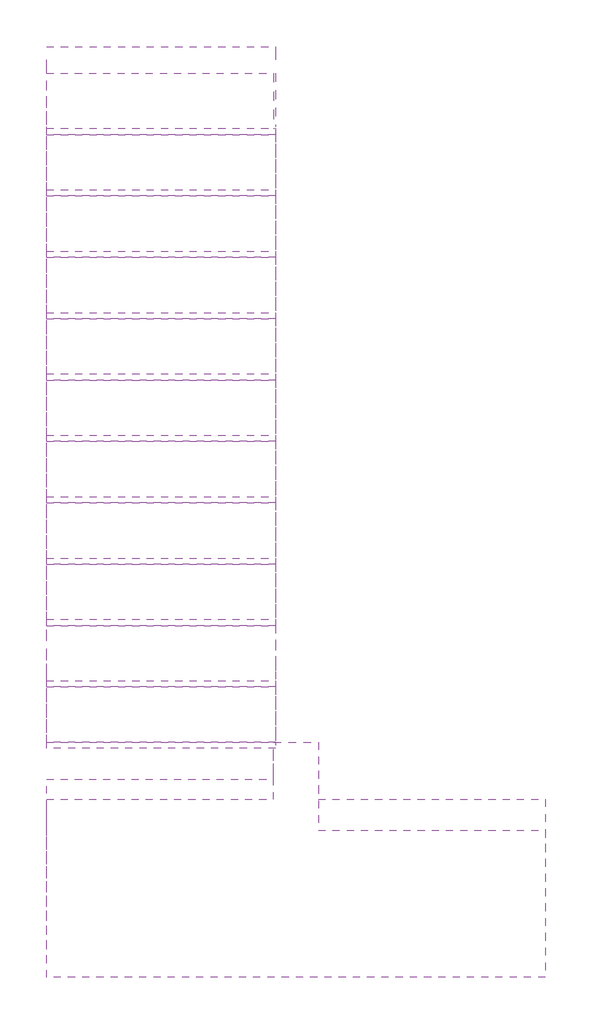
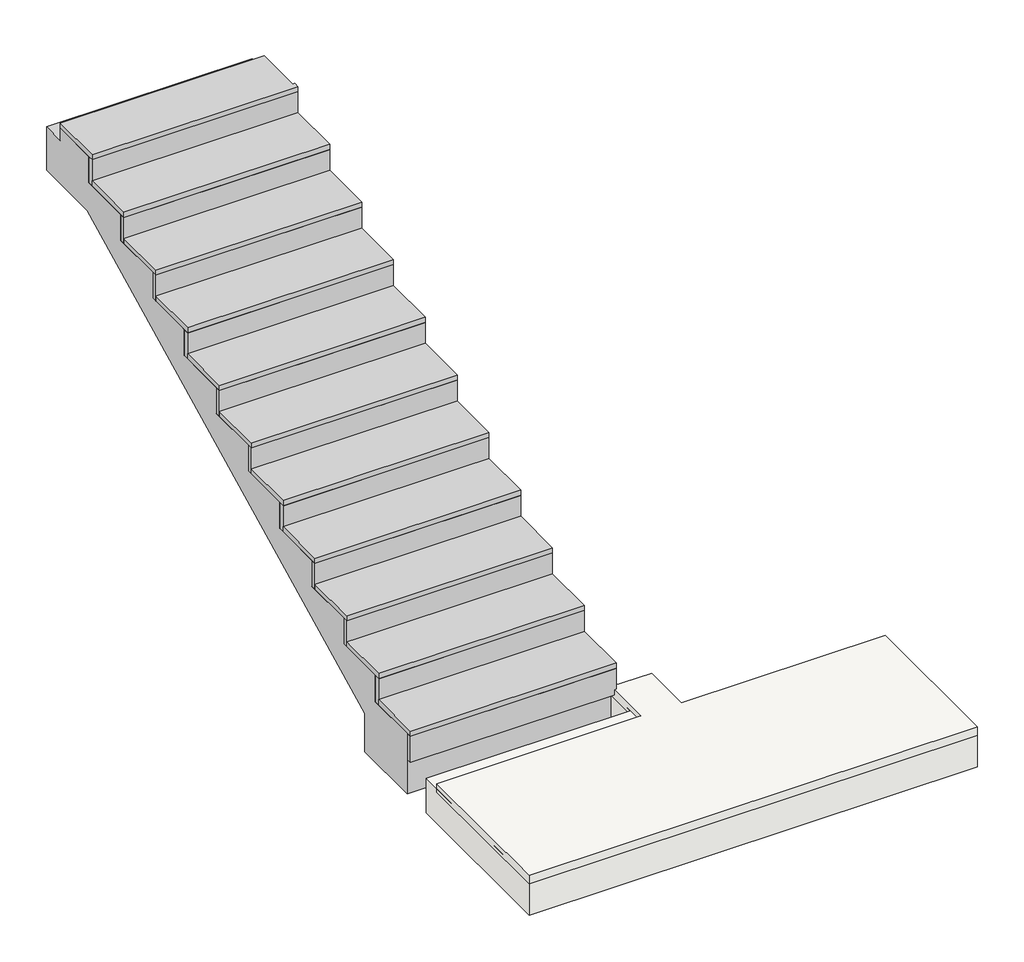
# One storey: 22 proxies, 2 slabs, 1 beam.
"""IFC4 building model written with IfcOpenShell, lengths in millimetres."""

from ifc_helpers import new_model, si_unit, frame, origin, place, context, project, spatial, polyline, outline, extrude, faceted_brep, transform, mapped, element, save
from components import generic_models_d5e938d4, generic_models_e5fd676e

model = new_model("IFC4")

# Units and contexts
model_context = context("Model", 3, world=origin())
ifc_project = project(units=[si_unit("LENGTHUNIT", "METRE", prefix="MILLI")], contexts=[model_context])

# Site, building, storey
site = spatial("IfcSite", under=ifc_project)
building = spatial("IfcBuilding", under=site)
storey = spatial("IfcBuildingStorey", under=building, Name="01_+0,000_В", Elevation=-3200.0)

# Beam
placement = place(None, origin())
element("IfcBeam", 1, ObjectType="SF_марш монолитный с отделкой_3.4 : UP_300х150", at=placement, inside=storey, context=model_context, shape_type="Brep", body=[
    faceted_brep([(141910.0000001, 115767.7708751, 850.0), (143030.0000001, 115767.7708751, 850.0), (143030.0000001, 113149.9999987, -458.8854382), (141910.0000001, 113149.9999987, -458.8854382), (143030.0000001, 116019.9999987, 1100.0), (143030.0000001, 116019.9999987, 1170.0), (143030.0000001, 115749.9999987, 1170.0), (143030.0000001, 115749.9999987, 1100.0), (143030.0000001, 115749.9999987, 1020.0), (143030.0000001, 115449.9999987, 1020.0), (143030.0000001, 115449.9999987, 870.0), (143030.0000001, 115149.9999987, 870.0), (143030.0000001, 115149.9999987, 720.0), (143030.0000001, 114849.9999987, 720.0), (143030.0000001, 114849.9999987, 570.0), (143030.0000001, 114549.9999987, 570.0), (143030.0000001, 114549.9999987, 420.0), (143030.0000001, 114249.9999987, 420.0), (143030.0000001, 114249.9999987, 270.0), (143030.0000001, 113949.9999987, 270.0), (143030.0000001, 113949.9999987, 120.0), (143030.0000001, 113649.9999987, 120.0), (143030.0000001, 113649.9999987, -30.0), (143030.0000001, 113349.9999987, -30.0), (143030.0000001, 113349.9999987, -180.0), (143030.0000001, 113049.9999987, -180.0), (143030.0000001, 113049.9999987, -330.0), (143030.0000001, 112749.9999987, -330.0), (143030.0000001, 112749.9999987, -480.0), (143030.0000001, 112749.9999987, -680.0), (143030.0000001, 113149.9999987, -680.0), (143030.0000001, 116149.9999987, 850.0), (143030.0000001, 116149.9999987, 1100.0), (141910.0000001, 116019.9999987, 1170.0), (141910.0000001, 116019.9999987, 1100.0), (141910.0000001, 116149.9999987, 1100.0), (141910.0000001, 116149.9999987, 850.0), (141910.0000001, 113149.9999987, -680.0), (141910.0000001, 112749.9999987, -680.0), (141910.0000001, 112749.9999987, -480.0), (141910.0000001, 112749.9999987, -330.0), (141910.0000001, 113049.9999987, -330.0), (141910.0000001, 113049.9999987, -180.0), (141910.0000001, 113349.9999987, -180.0), (141910.0000001, 113349.9999987, -30.0), (141910.0000001, 113649.9999987, -30.0), (141910.0000001, 113649.9999987, 120.0), (141910.0000001, 113949.9999987, 120.0), (141910.0000001, 113949.9999987, 270.0), (141910.0000001, 114249.9999987, 270.0), (141910.0000001, 114249.9999987, 420.0), (141910.0000001, 114549.9999987, 420.0), (141910.0000001, 114549.9999987, 570.0), (141910.0000001, 114849.9999987, 570.0), (141910.0000001, 114849.9999987, 720.0), (141910.0000001, 115149.9999987, 720.0), (141910.0000001, 115149.9999987, 870.0), (141910.0000001, 115449.9999987, 870.0), (141910.0000001, 115449.9999987, 1020.0), (141910.0000001, 115749.9999987, 1020.0), (141910.0000001, 115749.9999987, 1170.0)], [[[0, 1, 2, 3]], [[4, 5, 6, 7, 8, 9, 10, 11, 12, 13, 14, 15, 16, 17, 18, 19, 20, 21, 22, 23, 24, 25, 26, 27, 28, 29, 30, 2, 1, 31, 32]], [[33, 34, 35, 36, 0, 3, 37, 38, 39, 40, 41, 42, 43, 44, 45, 46, 47, 48, 49, 50, 51, 52, 53, 54, 55, 56, 57, 58, 59, 60]], [[1, 0, 36, 31]], [[26, 41, 40, 27]], [[41, 26, 25, 42]], [[42, 25, 24, 43]], [[43, 24, 23, 44]], [[44, 23, 22, 45]], [[45, 22, 21, 46]], [[46, 21, 20, 47]], [[47, 20, 19, 48]], [[48, 19, 18, 49]], [[49, 18, 17, 50]], [[50, 17, 16, 51]], [[51, 16, 15, 52]], [[52, 15, 14, 53]], [[53, 14, 13, 54]], [[54, 13, 12, 55]], [[55, 12, 11, 56]], [[56, 11, 10, 57]], [[57, 10, 9, 58]], [[58, 9, 8, 59]], [[59, 8, 7, 6, 60]], [[37, 30, 29, 38]], [[5, 33, 60, 6]], [[36, 35, 32, 31]], [[30, 37, 3, 2]], [[34, 4, 32, 35]], [[5, 4, 34, 33]], [[38, 29, 28, 27, 40, 39]]]),
])

# Proxies
element("IfcBuildingElementProxy", 2, Name="GM_Отделка : Подступенок", ObjectType="GM_Отделка : Подступенок", at=placement, inside=storey, context=model_context, shape_type="SweptSolid", body=[
    extrude(outline(polyline([(143030.0000001, 112719.9999987), (141910.0000001, 112719.9999987), (141910.0000001, 112749.9999987), (143030.0000001, 112749.9999987), (143030.0000001, 112719.9999987)])), frame((0.0, 0.0, -480.0), z_axis=(0.0, 0.0, 1.0), x_axis=(1.0, 0.0, 0.0)), (0.0, 0.0, 1.0), 150.0),
])
element("IfcBuildingElementProxy", 3, Name="GM_Отделка : Ступень", ObjectType="GM_Отделка : Ступень", at=placement, inside=storey, context=model_context, shape_type="SweptSolid", body=[
    extrude(outline(polyline([(141910.0000001, 115719.9999987), (141910.0000001, 116019.9999987), (143019.9999999, 116019.9999987), (143019.9999999, 115749.9999989), (143030.0000001, 115749.9999989), (143030.0000001, 115719.9999987), (141910.0000001, 115719.9999987)])), frame((0.0, 0.0, 1170.0), z_axis=(0.0, 0.0, 1.0), x_axis=(1.0, 0.0, 0.0)), (0.0, 0.0, 1.0), 30.0),
])
generic_models_shape = generic_models_d5e938d4(model_context)
element("IfcBuildingElementProxy", 4, Name="GM_Отделка : Подступенок", ObjectType="GM_Отделка : Подступенок", at=placement, inside=storey, context=model_context, shape_type="MappedRepresentation", body=[
    mapped(generic_models_shape, transform((142882.5000001, 113049.9999987, 20.0), x_axis=(0.0, 0.0, 1.0), y_axis=(-1.0, 0.0, 0.0), z_axis=(0.0, -1.0, 0.0))),
])
element("IfcBuildingElementProxy", 5, Name="GM_Отделка : Подступенок", ObjectType="GM_Отделка : Подступенок", at=placement, inside=storey, context=model_context, shape_type="MappedRepresentation", body=[
    mapped(generic_models_shape, transform((142882.5000001, 113349.9999987, 170.0), x_axis=(0.0, 0.0, 1.0), y_axis=(-1.0, 0.0, 0.0), z_axis=(0.0, -1.0, 0.0))),
])
element("IfcBuildingElementProxy", 6, Name="GM_Отделка : Подступенок", ObjectType="GM_Отделка : Подступенок", at=placement, inside=storey, context=model_context, shape_type="MappedRepresentation", body=[
    mapped(generic_models_shape, transform((142882.5000001, 113649.9999987, 320.0), x_axis=(0.0, 0.0, 1.0), y_axis=(-1.0, 0.0, 0.0), z_axis=(0.0, -1.0, 0.0))),
])
element("IfcBuildingElementProxy", 7, Name="GM_Отделка : Подступенок", ObjectType="GM_Отделка : Подступенок", at=placement, inside=storey, context=model_context, shape_type="MappedRepresentation", body=[
    mapped(generic_models_shape, transform((142882.5000001, 113949.9999987, 470.0), x_axis=(0.0, 0.0, 1.0), y_axis=(-1.0, 0.0, 0.0), z_axis=(0.0, -1.0, 0.0))),
])
element("IfcBuildingElementProxy", 8, Name="GM_Отделка : Подступенок", ObjectType="GM_Отделка : Подступенок", at=placement, inside=storey, context=model_context, shape_type="MappedRepresentation", body=[
    mapped(generic_models_shape, transform((142882.5000001, 114249.9999987, 620.0), x_axis=(0.0, 0.0, 1.0), y_axis=(-1.0, 0.0, 0.0), z_axis=(0.0, -1.0, 0.0))),
])
element("IfcBuildingElementProxy", 9, Name="GM_Отделка : Подступенок", ObjectType="GM_Отделка : Подступенок", at=placement, inside=storey, context=model_context, shape_type="MappedRepresentation", body=[
    mapped(generic_models_shape, transform((142882.5000001, 114549.9999987, 770.0), x_axis=(0.0, 0.0, 1.0), y_axis=(-1.0, 0.0, 0.0), z_axis=(0.0, -1.0, 0.0))),
])
element("IfcBuildingElementProxy", 10, Name="GM_Отделка : Подступенок", ObjectType="GM_Отделка : Подступенок", at=placement, inside=storey, context=model_context, shape_type="MappedRepresentation", body=[
    mapped(generic_models_shape, transform((142882.5000001, 114849.9999987, 920.0), x_axis=(0.0, 0.0, 1.0), y_axis=(-1.0, 0.0, 0.0), z_axis=(0.0, -1.0, 0.0))),
])
element("IfcBuildingElementProxy", 11, Name="GM_Отделка : Подступенок", ObjectType="GM_Отделка : Подступенок", at=placement, inside=storey, context=model_context, shape_type="MappedRepresentation", body=[
    mapped(generic_models_shape, transform((142882.5000001, 115149.9999987, 1070.0), x_axis=(0.0, 0.0, 1.0), y_axis=(-1.0, 0.0, 0.0), z_axis=(0.0, -1.0, 0.0))),
])
element("IfcBuildingElementProxy", 12, Name="GM_Отделка : Подступенок", ObjectType="GM_Отделка : Подступенок", at=placement, inside=storey, context=model_context, shape_type="MappedRepresentation", body=[
    mapped(generic_models_shape, transform((142882.5000001, 115449.9999987, 1220.0), x_axis=(0.0, 0.0, 1.0), y_axis=(-1.0, 0.0, 0.0), z_axis=(0.0, -1.0, 0.0))),
])
element("IfcBuildingElementProxy", 13, Name="GM_Отделка : Подступенок", ObjectType="GM_Отделка : Подступенок", at=placement, inside=storey, context=model_context, shape_type="MappedRepresentation", body=[
    mapped(generic_models_shape, transform((142882.5000001, 115749.9999987, 1370.0), x_axis=(0.0, 0.0, 1.0), y_axis=(-1.0, 0.0, 0.0), z_axis=(0.0, -1.0, 0.0))),
])
generic_models_2_shape = generic_models_e5fd676e(model_context)
element("IfcBuildingElementProxy", 14, Name="GM_Отделка : Ступень", ObjectType="GM_Отделка : Ступень", at=placement, inside=storey, context=model_context, shape_type="MappedRepresentation", body=[
    mapped(generic_models_2_shape, transform((142882.5000001, 113069.9999987, -330.0), x_axis=(0.0, 1.0, 0.0), y_axis=(-1.0, 0.0, 0.0), z_axis=(0.0, 0.0, 1.0))),
])
element("IfcBuildingElementProxy", 15, Name="GM_Отделка : Ступень", ObjectType="GM_Отделка : Ступень", at=placement, inside=storey, context=model_context, shape_type="MappedRepresentation", body=[
    mapped(generic_models_2_shape, transform((142882.5000001, 113369.9999987, -180.0), x_axis=(0.0, 1.0, 0.0), y_axis=(-1.0, 0.0, 0.0), z_axis=(0.0, 0.0, 1.0))),
])
element("IfcBuildingElementProxy", 16, Name="GM_Отделка : Ступень", ObjectType="GM_Отделка : Ступень", at=placement, inside=storey, context=model_context, shape_type="MappedRepresentation", body=[
    mapped(generic_models_2_shape, transform((142882.5000001, 113669.9999987, -30.0), x_axis=(0.0, 1.0, 0.0), y_axis=(-1.0, 0.0, 0.0), z_axis=(0.0, 0.0, 1.0))),
])
element("IfcBuildingElementProxy", 17, Name="GM_Отделка : Ступень", ObjectType="GM_Отделка : Ступень", at=placement, inside=storey, context=model_context, shape_type="MappedRepresentation", body=[
    mapped(generic_models_2_shape, transform((142882.5000001, 113969.9999987, 120.0), x_axis=(0.0, 1.0, 0.0), y_axis=(-1.0, 0.0, 0.0), z_axis=(0.0, 0.0, 1.0))),
])
element("IfcBuildingElementProxy", 18, Name="GM_Отделка : Ступень", ObjectType="GM_Отделка : Ступень", at=placement, inside=storey, context=model_context, shape_type="MappedRepresentation", body=[
    mapped(generic_models_2_shape, transform((142882.5000001, 114269.9999987, 270.0), x_axis=(0.0, 1.0, 0.0), y_axis=(-1.0, 0.0, 0.0), z_axis=(0.0, 0.0, 1.0))),
])
element("IfcBuildingElementProxy", 19, Name="GM_Отделка : Ступень", ObjectType="GM_Отделка : Ступень", at=placement, inside=storey, context=model_context, shape_type="MappedRepresentation", body=[
    mapped(generic_models_2_shape, transform((142882.5000001, 114569.9999987, 420.0), x_axis=(0.0, 1.0, 0.0), y_axis=(-1.0, 0.0, 0.0), z_axis=(0.0, 0.0, 1.0))),
])
element("IfcBuildingElementProxy", 20, Name="GM_Отделка : Ступень", ObjectType="GM_Отделка : Ступень", at=placement, inside=storey, context=model_context, shape_type="MappedRepresentation", body=[
    mapped(generic_models_2_shape, transform((142882.5000001, 114869.9999987, 570.0), x_axis=(0.0, 1.0, 0.0), y_axis=(-1.0, 0.0, 0.0), z_axis=(0.0, 0.0, 1.0))),
])
element("IfcBuildingElementProxy", 21, Name="GM_Отделка : Ступень", ObjectType="GM_Отделка : Ступень", at=placement, inside=storey, context=model_context, shape_type="MappedRepresentation", body=[
    mapped(generic_models_2_shape, transform((142882.5000001, 115169.9999987, 720.0), x_axis=(0.0, 1.0, 0.0), y_axis=(-1.0, 0.0, 0.0), z_axis=(0.0, 0.0, 1.0))),
])
element("IfcBuildingElementProxy", 22, Name="GM_Отделка : Ступень", ObjectType="GM_Отделка : Ступень", at=placement, inside=storey, context=model_context, shape_type="MappedRepresentation", body=[
    mapped(generic_models_2_shape, transform((142882.5000001, 115469.9999987, 870.0), x_axis=(0.0, 1.0, 0.0), y_axis=(-1.0, 0.0, 0.0), z_axis=(0.0, 0.0, 1.0))),
])
element("IfcBuildingElementProxy", 23, Name="GM_Отделка : Ступень", ObjectType="GM_Отделка : Ступень", at=placement, inside=storey, context=model_context, shape_type="MappedRepresentation", body=[
    mapped(generic_models_2_shape, transform((142882.5000001, 115769.9999987, 1020.0), x_axis=(0.0, 1.0, 0.0), y_axis=(-1.0, 0.0, 0.0), z_axis=(0.0, 0.0, 1.0))),
])

# Slabs
element("IfcSlab", 24, ObjectType="FIN_50_Тип 17_ЛК промежуточные-------", at=placement, inside=storey, context=model_context, shape_type="SweptSolid", body=[
    extrude(outline(polyline([(144350.0000001, 111599.9999987), (141910.0000001, 111599.9999987), (141910.0000001, 112469.9999989), (143019.9999999, 112469.9999989), (143019.9999999, 112749.9999989), (143240.0000002, 112749.9999989), (143240.0000002, 112469.9999989), (144350.0000001, 112469.9999989), (144350.0000001, 111599.9999987)])), frame((0.0, 0.0, -500.0), z_axis=(0.0, 0.0, 1.0), x_axis=(1.0, 0.0, 0.0)), (0.0, 0.0, 1.0), 50.0),
])
element("IfcSlab", 25, ObjectType="STR_CIP_UP_200_выше 0,000-------", at=placement, inside=storey, context=model_context, shape_type="SweptSolid", body=[
    extrude(outline(polyline([(144350.0000001, 111599.9999987), (141910.0000001, 111599.9999987), (141910.0000001, 112569.9999985), (143019.9999999, 112569.9999985), (143019.9999999, 112749.9999985), (143240.0000001, 112749.9999985), (143240.0000001, 112319.9999985), (144350.0000001, 112319.9999985), (144350.0000001, 111599.9999987)])), frame((0.0, 0.0, -680.0), z_axis=(0.0, 0.0, 1.0), x_axis=(1.0, 0.0, 0.0)), (0.0, 0.0, 1.0), 200.0),
])

save(model, "model.ifc")
